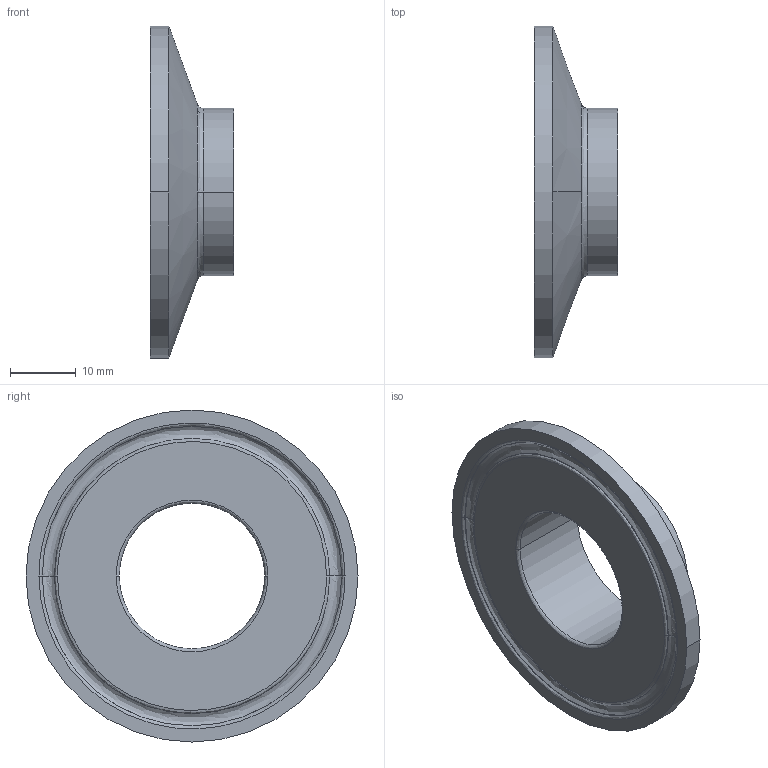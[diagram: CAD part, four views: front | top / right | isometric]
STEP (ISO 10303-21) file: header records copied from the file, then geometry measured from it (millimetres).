
FILE_DESCRIPTION (( 'STEP AP214' ), '1' );
FILE_NAME ('TEG2CS6L1.0_TYPE B.STEP', '2016-05-22T11:58:57', ( 'eran' ), ( '' ), 'SwSTEP 2.0', 'SolidWorks 2016', '' );
FILE_SCHEMA (( 'AUTOMOTIVE_DESIGN' ));
Length unit declared in the file: millimetre
Products named in the file (1): TEG2CS6L1.0_TYPE B
Bounding box: 12.7 x 50.39 x 50.39 mm (x, y, z)
Volume: 8632.9 mm3; surface area: 5124.7 mm2
Topology: 1 solids, 1 shells, 25 faces, 62 edges, 40 vertices
Faces by surface type: bspline 10, cone 6, cylinder 6, plane 3
Entity records: 1304 total; most frequent: CARTESIAN_POINT 680, DIRECTION 132, ORIENTED_EDGE 124, EDGE_CURVE 62, AXIS2_PLACEMENT_3D 60, CIRCLE 44, VERTEX_POINT 40, EDGE_LOOP 28
